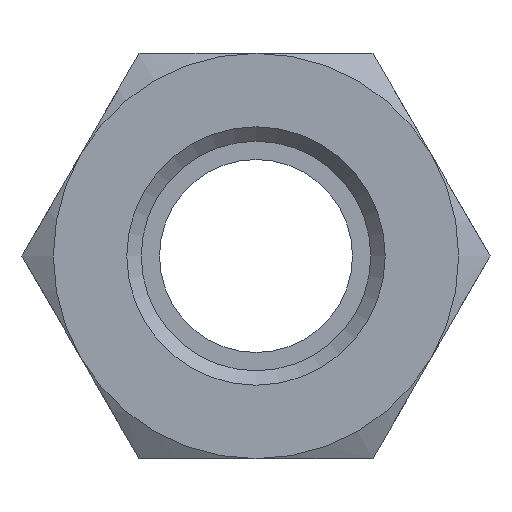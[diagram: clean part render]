
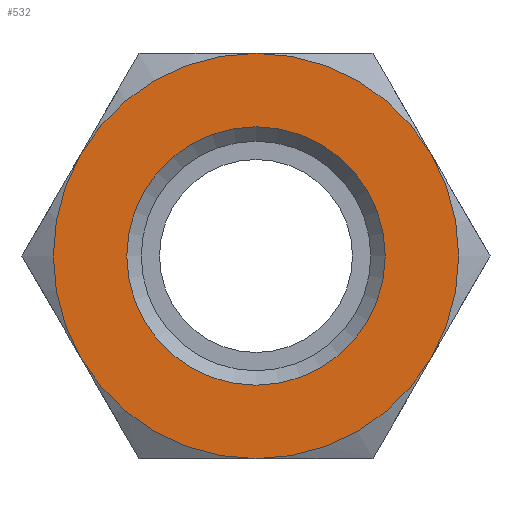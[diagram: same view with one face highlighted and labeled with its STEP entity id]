
A CAD part, front view. The second image highlights one B-rep face of the part: STEP entity #532.
In plain terms, the highlighted planar face has unit normal (0, -1, 0).
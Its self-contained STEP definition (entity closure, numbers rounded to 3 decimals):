
#39=FACE_BOUND('',#146,.T.);
#46=PLANE('',#600);
#111=FACE_OUTER_BOUND('',#145,.T.);
#145=EDGE_LOOP('',(#389,#390,#391,#392,#393,#394));
#146=EDGE_LOOP('',(#395));
#193=CIRCLE('',#596,6.695);
#196=CIRCLE('',#601,10.5);
#197=CIRCLE('',#602,10.5);
#198=CIRCLE('',#603,10.5);
#199=CIRCLE('',#604,10.5);
#200=CIRCLE('',#605,10.5);
#201=CIRCLE('',#606,10.5);
#236=VERTEX_POINT('',#858);
#239=VERTEX_POINT('',#868);
#240=VERTEX_POINT('',#869);
#241=VERTEX_POINT('',#871);
#242=VERTEX_POINT('',#873);
#243=VERTEX_POINT('',#875);
#244=VERTEX_POINT('',#877);
#294=EDGE_CURVE('',#236,#236,#193,.T.);
#298=EDGE_CURVE('',#239,#240,#196,.T.);
#299=EDGE_CURVE('',#240,#241,#197,.T.);
#300=EDGE_CURVE('',#241,#242,#198,.T.);
#301=EDGE_CURVE('',#242,#243,#199,.T.);
#302=EDGE_CURVE('',#243,#244,#200,.T.);
#303=EDGE_CURVE('',#244,#239,#201,.T.);
#389=ORIENTED_EDGE('',*,*,#298,.T.);
#390=ORIENTED_EDGE('',*,*,#299,.T.);
#391=ORIENTED_EDGE('',*,*,#300,.T.);
#392=ORIENTED_EDGE('',*,*,#301,.T.);
#393=ORIENTED_EDGE('',*,*,#302,.T.);
#394=ORIENTED_EDGE('',*,*,#303,.T.);
#395=ORIENTED_EDGE('',*,*,#294,.F.);
#532=ADVANCED_FACE('',(#111,#39),#46,.T.);
#596=AXIS2_PLACEMENT_3D('',#860,#692,#693);
#600=AXIS2_PLACEMENT_3D('',#867,#701,#702);
#601=AXIS2_PLACEMENT_3D('',#870,#703,#704);
#602=AXIS2_PLACEMENT_3D('',#872,#705,#706);
#603=AXIS2_PLACEMENT_3D('',#874,#707,#708);
#604=AXIS2_PLACEMENT_3D('',#876,#709,#710);
#605=AXIS2_PLACEMENT_3D('',#878,#711,#712);
#606=AXIS2_PLACEMENT_3D('',#879,#713,#714);
#692=DIRECTION('center_axis',(0.,-1.,0.));
#693=DIRECTION('ref_axis',(-1.,0.,0.));
#701=DIRECTION('center_axis',(0.,-1.,0.));
#702=DIRECTION('ref_axis',(0.,0.,-1.));
#703=DIRECTION('center_axis',(0.,-1.,0.));
#704=DIRECTION('ref_axis',(1.,0.,0.));
#705=DIRECTION('center_axis',(0.,-1.,0.));
#706=DIRECTION('ref_axis',(1.,0.,0.));
#707=DIRECTION('center_axis',(0.,-1.,0.));
#708=DIRECTION('ref_axis',(1.,0.,0.));
#709=DIRECTION('center_axis',(0.,-1.,0.));
#710=DIRECTION('ref_axis',(1.,0.,0.));
#711=DIRECTION('center_axis',(0.,-1.,0.));
#712=DIRECTION('ref_axis',(1.,0.,0.));
#713=DIRECTION('center_axis',(0.,-1.,0.));
#714=DIRECTION('ref_axis',(1.,0.,0.));
#858=CARTESIAN_POINT('',(6.695,0.,0.));
#860=CARTESIAN_POINT('Origin',(0.,0.,0.));
#867=CARTESIAN_POINT('Origin',(5.945,0.,0.));
#868=CARTESIAN_POINT('',(-9.093,0.,5.25));
#869=CARTESIAN_POINT('',(-9.093,0.,-5.25));
#870=CARTESIAN_POINT('Origin',(0.,0.,0.));
#871=CARTESIAN_POINT('',(0.,0.,-10.5));
#872=CARTESIAN_POINT('Origin',(0.,0.,0.));
#873=CARTESIAN_POINT('',(9.093,0.,-5.25));
#874=CARTESIAN_POINT('Origin',(0.,0.,0.));
#875=CARTESIAN_POINT('',(9.093,0.,5.25));
#876=CARTESIAN_POINT('Origin',(0.,0.,0.));
#877=CARTESIAN_POINT('',(0.,0.,10.5));
#878=CARTESIAN_POINT('Origin',(0.,0.,0.));
#879=CARTESIAN_POINT('Origin',(0.,0.,0.));
